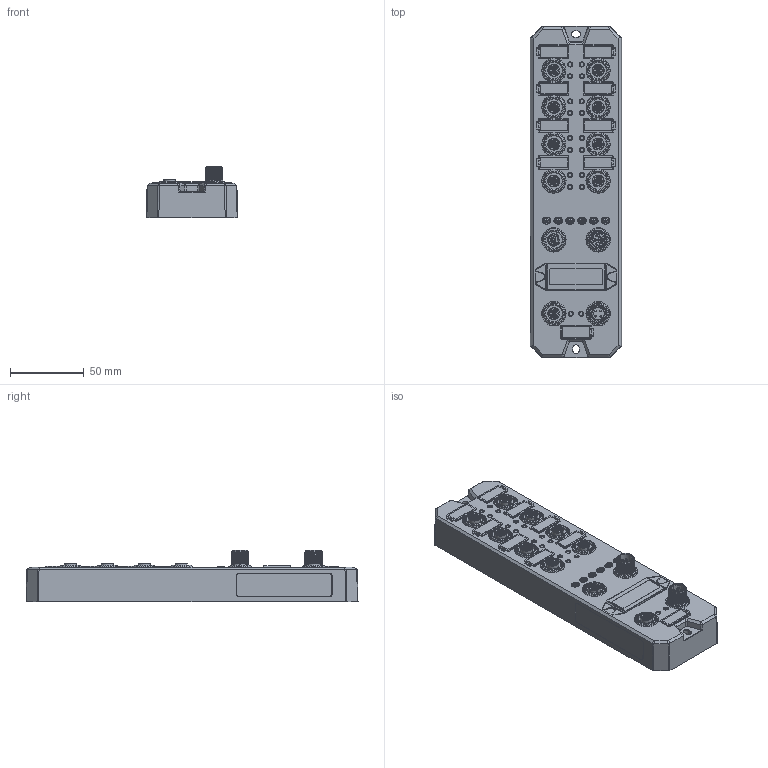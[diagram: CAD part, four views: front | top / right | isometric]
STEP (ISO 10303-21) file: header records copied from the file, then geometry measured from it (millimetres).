
FILE_DESCRIPTION((''),'2;1');
FILE_NAME('IP67_ASSY','2023-04-19T16:48:21',('董'),(''),'CREO PARAMETRIC BY PTC INC, 2020033','CREO PARAMETRIC BY PTC INC, 2020033','');
FILE_SCHEMA(('CONFIG_CONTROL_DESIGN'));
Products named in the file (1): IP67_ASSY
Bounding box: 62 x 225 x 35.2 mm (x, y, z)
Volume: 318600.2 mm3; surface area: 72558.5 mm2
Topology: 1 solids, 16 shells, 3506 faces, 8684 edges, 5461 vertices
Faces by surface type: plane 1368, cylinder 1073, extrusion 306, bspline 277, cone 236, torus 188, sphere 58
Entity records: 141411 total; most frequent: CARTESIAN_POINT 60810, ORIENTED_EDGE 17316, DIRECTION 15663, EDGE_CURVE 8658, AXIS2_PLACEMENT_3D 5578, VERTEX_POINT 5461, VECTOR 4507, LINE 4201
